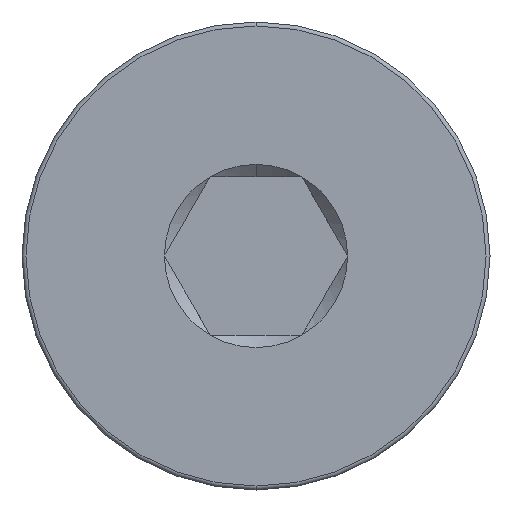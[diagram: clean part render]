
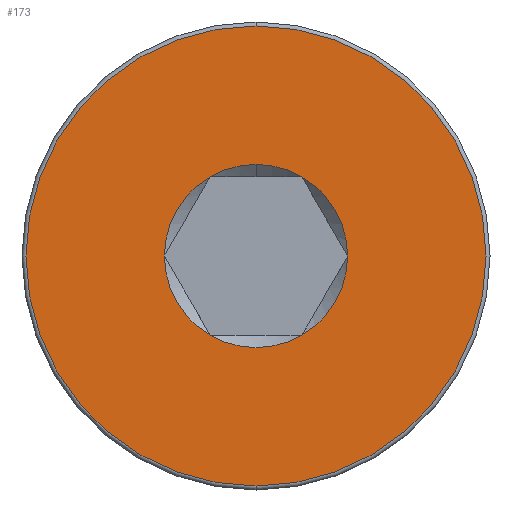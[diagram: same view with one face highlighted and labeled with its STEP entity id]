
A CAD part, left-side view. The second image highlights one B-rep face of the part: STEP entity #173.
In plain terms, the highlighted planar face has unit normal (-1, 0, 0).
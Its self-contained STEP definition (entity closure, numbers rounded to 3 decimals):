
#11 = CIRCLE ( 'NONE', #91, 2.309 ) ;
#20 = VERTEX_POINT ( 'NONE', #350 ) ;
#25 = CARTESIAN_POINT ( 'NONE',  ( 0., 1.155, 2. ) ) ;
#27 = VERTEX_POINT ( 'NONE', #501 ) ;
#33 = DIRECTION ( 'NONE',  ( 0., 0., 1. ) ) ;
#52 = CARTESIAN_POINT ( 'NONE',  ( 0., 0., 0. ) ) ;
#80 = CARTESIAN_POINT ( 'NONE',  ( 0., 2.309, 0. ) ) ;
#91 = AXIS2_PLACEMENT_3D ( 'NONE', #270, #153, #630 ) ;
#92 = EDGE_CURVE ( 'NONE', #529, #632, #234, .T. ) ;
#98 = EDGE_CURVE ( 'NONE', #20, #27, #662, .T. ) ;
#119 = ORIENTED_EDGE ( 'NONE', *, *, #412, .T. ) ;
#122 = DIRECTION ( 'NONE',  ( 0., 0., -1. ) ) ;
#125 = PLANE ( 'NONE',  #273 ) ;
#126 = EDGE_LOOP ( 'NONE', ( #600, #414, #772, #274, #119, #347, #769 ) ) ;
#130 = VERTEX_POINT ( 'NONE', #442 ) ;
#148 = DIRECTION ( 'NONE',  ( 0., 0., -1. ) ) ;
#153 = DIRECTION ( 'NONE',  ( 1., 0., 0. ) ) ;
#158 = EDGE_CURVE ( 'NONE', #130, #529, #704, .T. ) ;
#159 = DIRECTION ( 'NONE',  ( 1., 0., 0. ) ) ;
#167 = EDGE_CURVE ( 'NONE', #629, #647, #640, .T. ) ;
#173 = ADVANCED_FACE ( 'NONE', ( #564, #551 ), #125, .T. ) ;
#186 = CIRCLE ( 'NONE', #295, 2.309 ) ;
#188 = DIRECTION ( 'NONE',  ( 0., 0., -1. ) ) ;
#191 = AXIS2_PLACEMENT_3D ( 'NONE', #382, #614, #246 ) ;
#208 = CIRCLE ( 'NONE', #706, 2.309 ) ;
#215 = AXIS2_PLACEMENT_3D ( 'NONE', #730, #373, #122 ) ;
#234 = CIRCLE ( 'NONE', #544, 2.309 ) ;
#241 = CARTESIAN_POINT ( 'NONE',  ( 0., -1.155, -2. ) ) ;
#246 = DIRECTION ( 'NONE',  ( 0., 0., 1. ) ) ;
#255 = DIRECTION ( 'NONE',  ( 1., 0., 0. ) ) ;
#270 = CARTESIAN_POINT ( 'NONE',  ( 0., 0., 0. ) ) ;
#273 = AXIS2_PLACEMENT_3D ( 'NONE', #798, #513, #498 ) ;
#274 = ORIENTED_EDGE ( 'NONE', *, *, #92, .T. ) ;
#295 = AXIS2_PLACEMENT_3D ( 'NONE', #705, #159, #148 ) ;
#307 = CARTESIAN_POINT ( 'NONE',  ( 0., 0., 0. ) ) ;
#325 = DIRECTION ( 'NONE',  ( 1., 0., 0. ) ) ;
#347 = ORIENTED_EDGE ( 'NONE', *, *, #776, .T. ) ;
#350 = CARTESIAN_POINT ( 'NONE',  ( 0., 0., -5.8 ) ) ;
#373 = DIRECTION ( 'NONE',  ( 1., 0., 0. ) ) ;
#382 = CARTESIAN_POINT ( 'NONE',  ( 0., 0., 0. ) ) ;
#391 = DIRECTION ( 'NONE',  ( 0., 0., -1. ) ) ;
#403 = CARTESIAN_POINT ( 'NONE',  ( 0., 0., 0. ) ) ;
#407 = DIRECTION ( 'NONE',  ( -1., 0., 0. ) ) ;
#412 = EDGE_CURVE ( 'NONE', #632, #489, #208, .T. ) ;
#414 = ORIENTED_EDGE ( 'NONE', *, *, #657, .T. ) ;
#420 = VERTEX_POINT ( 'NONE', #790 ) ;
#427 = DIRECTION ( 'NONE',  ( 1., 0., 0. ) ) ;
#429 = DIRECTION ( 'NONE',  ( 0., 0., -1. ) ) ;
#442 = CARTESIAN_POINT ( 'NONE',  ( 0., 0., 2.309 ) ) ;
#450 = CARTESIAN_POINT ( 'NONE',  ( 0., 0., 0. ) ) ;
#479 = CIRCLE ( 'NONE', #671, 5.8 ) ;
#489 = VERTEX_POINT ( 'NONE', #241 ) ;
#498 = DIRECTION ( 'NONE',  ( 0., 0., 1. ) ) ;
#501 = CARTESIAN_POINT ( 'NONE',  ( 0., 0., 5.8 ) ) ;
#509 = AXIS2_PLACEMENT_3D ( 'NONE', #450, #255, #391 ) ;
#513 = DIRECTION ( 'NONE',  ( -1., 0., 0. ) ) ;
#529 = VERTEX_POINT ( 'NONE', #613 ) ;
#544 = AXIS2_PLACEMENT_3D ( 'NONE', #670, #555, #188 ) ;
#550 = CARTESIAN_POINT ( 'NONE',  ( 0., -2.309, 0. ) ) ;
#551 = FACE_BOUND ( 'NONE', #126, .T. ) ;
#555 = DIRECTION ( 'NONE',  ( 1., 0., 0. ) ) ;
#564 = FACE_OUTER_BOUND ( 'NONE', #663, .T. ) ;
#600 = ORIENTED_EDGE ( 'NONE', *, *, #167, .T. ) ;
#605 = DIRECTION ( 'NONE',  ( 0., 0., -1. ) ) ;
#610 = AXIS2_PLACEMENT_3D ( 'NONE', #307, #325, #605 ) ;
#613 = CARTESIAN_POINT ( 'NONE',  ( 0., -1.155, 2. ) ) ;
#614 = DIRECTION ( 'NONE',  ( -1., 0., 0. ) ) ;
#629 = VERTEX_POINT ( 'NONE', #80 ) ;
#630 = DIRECTION ( 'NONE',  ( 0., 0., -1. ) ) ;
#632 = VERTEX_POINT ( 'NONE', #550 ) ;
#640 = CIRCLE ( 'NONE', #610, 2.309 ) ;
#647 = VERTEX_POINT ( 'NONE', #25 ) ;
#657 = EDGE_CURVE ( 'NONE', #647, #130, #11, .T. ) ;
#659 = ORIENTED_EDGE ( 'NONE', *, *, #98, .T. ) ;
#662 = CIRCLE ( 'NONE', #191, 5.8 ) ;
#663 = EDGE_LOOP ( 'NONE', ( #689, #659 ) ) ;
#670 = CARTESIAN_POINT ( 'NONE',  ( 0., 0., 0. ) ) ;
#671 = AXIS2_PLACEMENT_3D ( 'NONE', #403, #407, #33 ) ;
#687 = EDGE_CURVE ( 'NONE', #27, #20, #479, .T. ) ;
#689 = ORIENTED_EDGE ( 'NONE', *, *, #687, .T. ) ;
#704 = CIRCLE ( 'NONE', #509, 2.309 ) ;
#705 = CARTESIAN_POINT ( 'NONE',  ( 0., 0., 0. ) ) ;
#706 = AXIS2_PLACEMENT_3D ( 'NONE', #52, #427, #429 ) ;
#730 = CARTESIAN_POINT ( 'NONE',  ( 0., 0., 0. ) ) ;
#733 = EDGE_CURVE ( 'NONE', #420, #629, #186, .T. ) ;
#736 = CIRCLE ( 'NONE', #215, 2.309 ) ;
#769 = ORIENTED_EDGE ( 'NONE', *, *, #733, .T. ) ;
#772 = ORIENTED_EDGE ( 'NONE', *, *, #158, .T. ) ;
#776 = EDGE_CURVE ( 'NONE', #489, #420, #736, .T. ) ;
#790 = CARTESIAN_POINT ( 'NONE',  ( 0., 1.155, -2. ) ) ;
#798 = CARTESIAN_POINT ( 'NONE',  ( 0., 0., 0. ) ) ;
